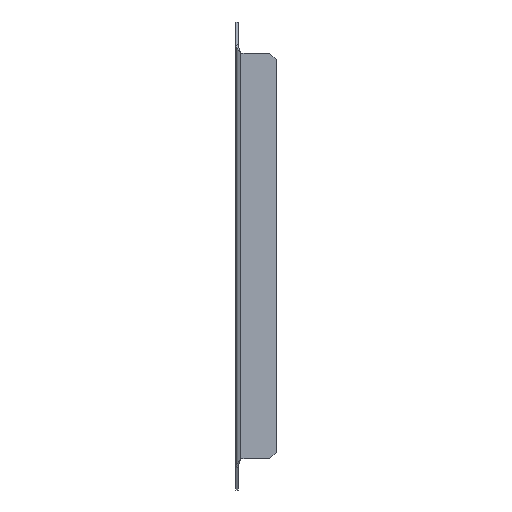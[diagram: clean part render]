
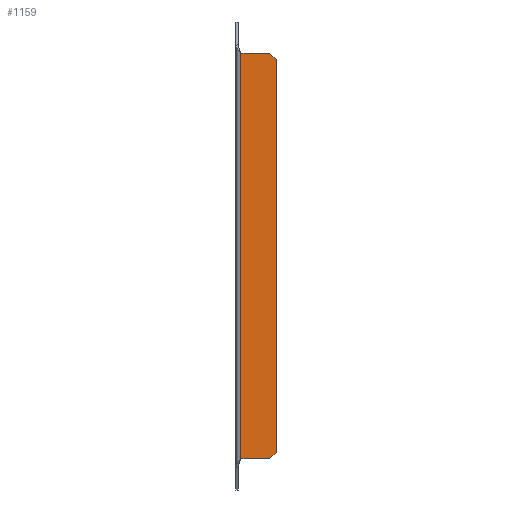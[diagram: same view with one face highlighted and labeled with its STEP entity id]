
A CAD part, left-side view. The second image highlights one B-rep face of the part: STEP entity #1159.
In plain terms, the highlighted planar face has unit normal (-1, 0, 0).
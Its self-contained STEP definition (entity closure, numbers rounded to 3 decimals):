
#13 = DIRECTION ( 'NONE',  ( -1., 0., 0. ) ) ;
#61 = CARTESIAN_POINT ( 'NONE',  ( -88.5, -55.725, -55.725 ) ) ;
#66 = LINE ( 'NONE', #1022, #1134 ) ;
#67 = VECTOR ( 'NONE', #285, 1000. ) ;
#105 = EDGE_CURVE ( 'NONE', #1541, #1197, #700, .T. ) ;
#123 = VERTEX_POINT ( 'NONE', #895 ) ;
#155 = CARTESIAN_POINT ( 'NONE',  ( -88.5, -16., 95.45 ) ) ;
#187 = DIRECTION ( 'NONE',  ( 0., 0., -1. ) ) ;
#243 = LINE ( 'NONE', #61, #332 ) ;
#251 = EDGE_CURVE ( 'NONE', #726, #123, #1497, .T. ) ;
#285 = DIRECTION ( 'NONE',  ( 0., 0.707, 0.707 ) ) ;
#296 = EDGE_CURVE ( 'NONE', #683, #726, #947, .T. ) ;
#300 = AXIS2_PLACEMENT_3D ( 'NONE', #741, #13, #770 ) ;
#313 = DIRECTION ( 'NONE',  ( 0., -0.707, 0.707 ) ) ;
#332 = VECTOR ( 'NONE', #313, 1000. ) ;
#362 = EDGE_CURVE ( 'NONE', #1026, #1541, #66, .T. ) ;
#383 = CARTESIAN_POINT ( 'NONE',  ( -88.5, -19., 92.45 ) ) ;
#426 = VECTOR ( 'NONE', #707, 1000. ) ;
#465 = ORIENTED_EDGE ( 'NONE', *, *, #520, .T. ) ;
#466 = LINE ( 'NONE', #948, #426 ) ;
#483 = VECTOR ( 'NONE', #187, 1000. ) ;
#520 = EDGE_CURVE ( 'NONE', #1197, #683, #466, .T. ) ;
#683 = VERTEX_POINT ( 'NONE', #1003 ) ;
#700 = LINE ( 'NONE', #1241, #67 ) ;
#707 = DIRECTION ( 'NONE',  ( 0., 1., 0. ) ) ;
#726 = VERTEX_POINT ( 'NONE', #1064 ) ;
#741 = CARTESIAN_POINT ( 'NONE',  ( -88.5, 0., 0. ) ) ;
#746 = ORIENTED_EDGE ( 'NONE', *, *, #105, .T. ) ;
#770 = DIRECTION ( 'NONE',  ( 0., -1., 0. ) ) ;
#815 = ORIENTED_EDGE ( 'NONE', *, *, #251, .T. ) ;
#853 = PLANE ( 'NONE',  #300 ) ;
#886 = CARTESIAN_POINT ( 'NONE',  ( -88.5, -2.4, 0. ) ) ;
#895 = CARTESIAN_POINT ( 'NONE',  ( -88.5, -16., -95.45 ) ) ;
#912 = CARTESIAN_POINT ( 'NONE',  ( -88.5, 0., -95.45 ) ) ;
#947 = LINE ( 'NONE', #886, #483 ) ;
#948 = CARTESIAN_POINT ( 'NONE',  ( -88.5, 0., 95.45 ) ) ;
#979 = EDGE_CURVE ( 'NONE', #123, #1026, #243, .T. ) ;
#1003 = CARTESIAN_POINT ( 'NONE',  ( -88.5, -2.4, 95.45 ) ) ;
#1022 = CARTESIAN_POINT ( 'NONE',  ( -88.5, -19., 0. ) ) ;
#1026 = VERTEX_POINT ( 'NONE', #1131 ) ;
#1027 = DIRECTION ( 'NONE',  ( 0., -1., 0. ) ) ;
#1064 = CARTESIAN_POINT ( 'NONE',  ( -88.5, -2.4, -95.45 ) ) ;
#1091 = ORIENTED_EDGE ( 'NONE', *, *, #979, .T. ) ;
#1131 = CARTESIAN_POINT ( 'NONE',  ( -88.5, -19., -92.45 ) ) ;
#1134 = VECTOR ( 'NONE', #1375, 1000. ) ;
#1159 = ADVANCED_FACE ( 'NONE', ( #1553 ), #853, .T. ) ;
#1197 = VERTEX_POINT ( 'NONE', #155 ) ;
#1241 = CARTESIAN_POINT ( 'NONE',  ( -88.5, -55.725, 55.725 ) ) ;
#1248 = VECTOR ( 'NONE', #1027, 1000. ) ;
#1281 = ORIENTED_EDGE ( 'NONE', *, *, #362, .T. ) ;
#1337 = EDGE_LOOP ( 'NONE', ( #815, #1091, #1281, #746, #465, #1466 ) ) ;
#1375 = DIRECTION ( 'NONE',  ( 0., 0., 1. ) ) ;
#1466 = ORIENTED_EDGE ( 'NONE', *, *, #296, .T. ) ;
#1497 = LINE ( 'NONE', #912, #1248 ) ;
#1541 = VERTEX_POINT ( 'NONE', #383 ) ;
#1553 = FACE_OUTER_BOUND ( 'NONE', #1337, .T. ) ;
